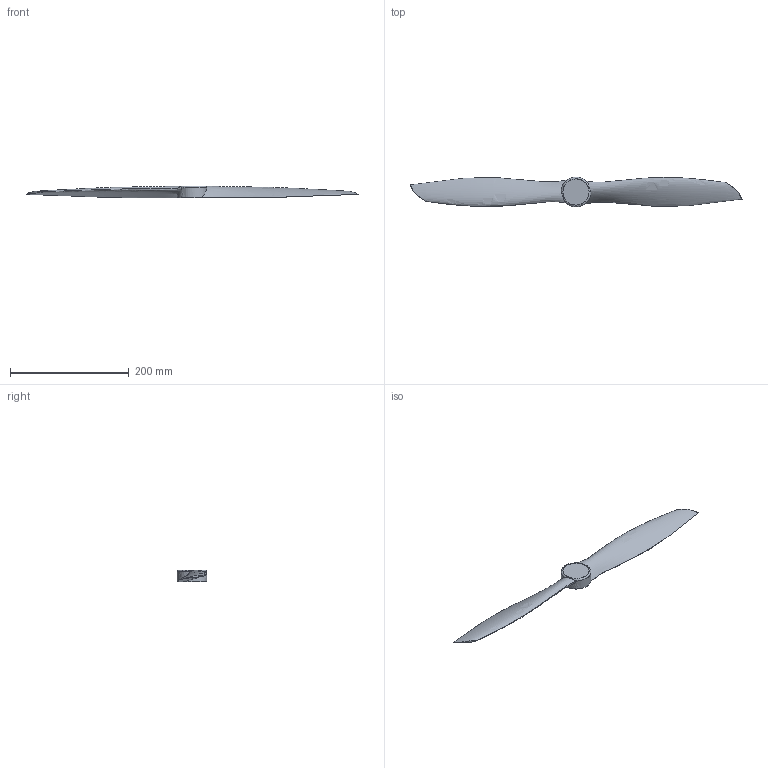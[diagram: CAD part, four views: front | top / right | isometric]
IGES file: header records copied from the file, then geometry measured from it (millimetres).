
Global section: file name: C:\NX6_files\v3_22x10.igs; native system: NX V6.0; preprocessor: SIEMENS UGS NX 6.0; date: 20101229.090532; units: millimetre
Bounding box: 558.8 x 50 x 20 mm (x, y, z)
Surface area: 50440 mm2 (no closed solid volume)
Topology: 0 solids, 0 shells, 12 faces, 729 edges, 1268 vertices
Faces by surface type: bspline 12
